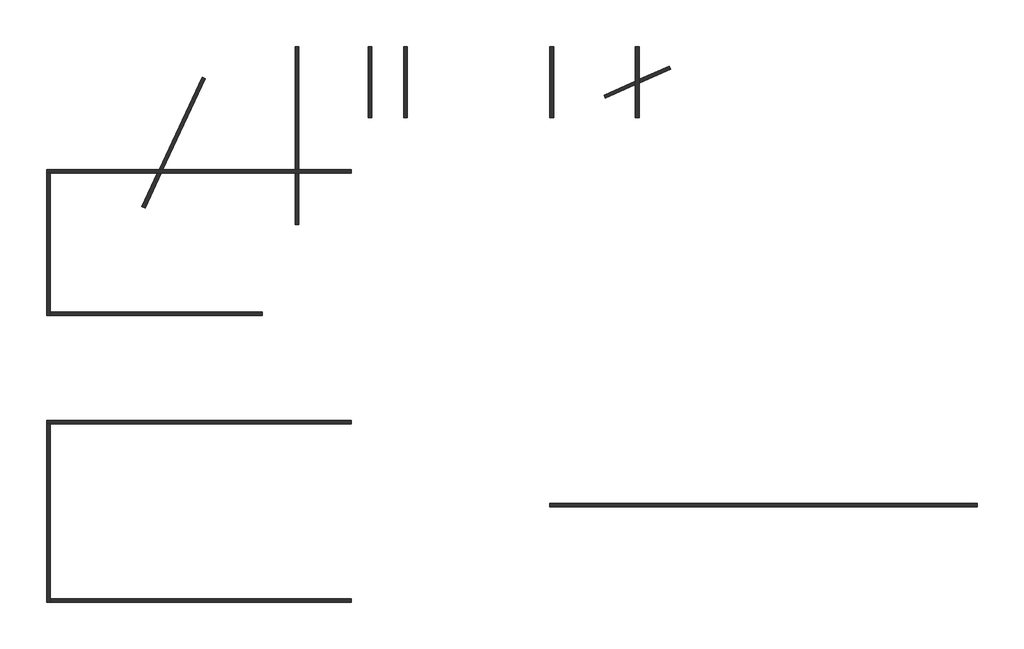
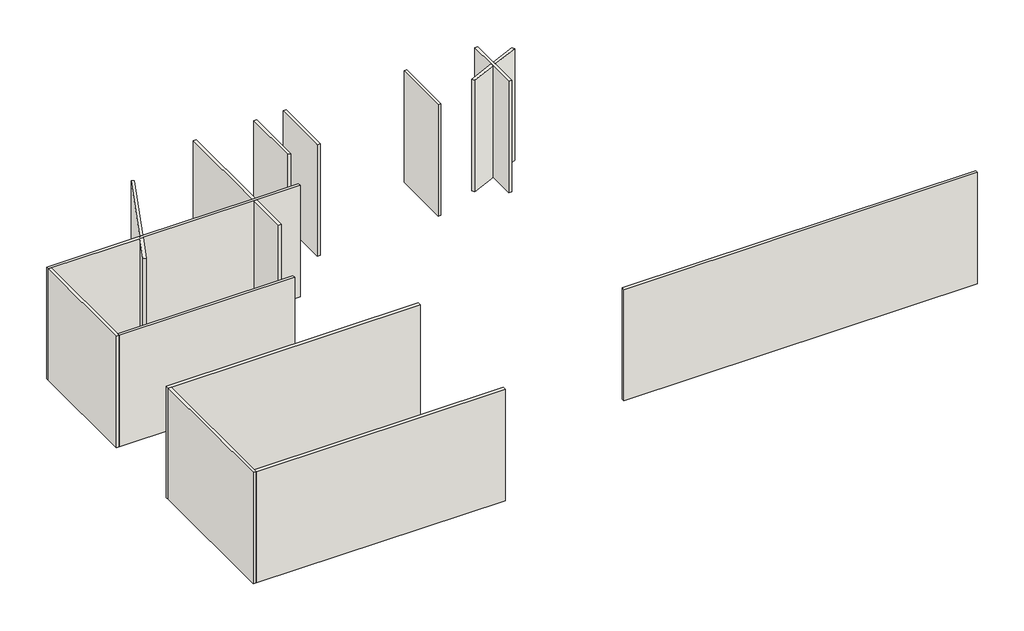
# One storey: 14 walls.
"""IFC4 building model written with IfcOpenShell, lengths in millimetres."""

import ifcopenshell
import ifcopenshell.guid

model = None  # the IFC model being written
_history = None  # IfcOwnerHistory: only IFC2X3 demands one
_inside = {}  # id of a spatial element -> (the spatial element, [elements in it])
_under = {}  # id of a project, library or spatial element -> (it, [spatial elements below it])
_declared = {}  # id of a project -> (the project, [libraries it declares])
_typed = {}  # id of a type object -> (the type object, [elements of that type])
_made_of = {}  # id of a material, layer set ... -> (it, [elements and type objects made of it])


def new_model(schema):
    """Start an empty IFC model of exactly this schema.

    Asked for "IFC4X3", IfcOpenShell would pick the latest addendum, in which some entities
    have other attributes; the version numbers below select the first issue.
    IFC2X3 requires an IfcOwnerHistory on every rooted entity: one is made here for all.
    """
    global model, _history
    if schema == "IFC4X3":
        model = ifcopenshell.file(schema_version=(4, 3, 0, 0))
    else:
        model = ifcopenshell.file(schema=schema)
    _inside.clear()
    _under.clear()
    _declared.clear()
    _typed.clear()
    _made_of.clear()
    _history = None
    if model.schema == "IFC2X3":
        org = make("IfcOrganization", Name="unknown")
        user = make(
            "IfcPersonAndOrganization",
            ThePerson=make("IfcPerson", FamilyName="unknown"),
            TheOrganization=org,
        )
        app = make(
            "IfcApplication",
            ApplicationDeveloper=org,
            Version="unknown",
            ApplicationFullName="unknown",
            ApplicationIdentifier="unknown",
        )
        _history = make(
            "IfcOwnerHistory",
            OwningUser=user,
            OwningApplication=app,
            ChangeAction="ADDED",
            CreationDate=0,
        )
    return model


def make(cls, **values):
    """One entity of the class cls with the attributes given. An attribute that is None is left unset."""
    return model.create_entity(
        cls, **{name: value for name, value in values.items() if value is not None}
    )


def rooted(cls, **values):
    """An entity with a GlobalId (a new one), such as an element, a storey or a relation."""
    return make(cls, GlobalId=ifcopenshell.guid.new(), OwnerHistory=_history, **values)


def si_unit(unit_type, name, prefix=None):
    """IfcSIUnit, for example si_unit("LENGTHUNIT", "METRE", prefix="MILLI")."""
    return make("IfcSIUnit", UnitType=unit_type, Prefix=prefix, Name=name)


def assignment(units):
    """IfcUnitAssignment: the units of a project."""
    return None if units is None else make("IfcUnitAssignment", Units=units)


def point(xyz):
    """IfcCartesianPoint."""
    return None if xyz is None else make("IfcCartesianPoint", Coordinates=xyz)


def direction(xyz):
    """IfcDirection."""
    return None if xyz is None else make("IfcDirection", DirectionRatios=xyz)


def frame(location, z_axis=None, x_axis=None):
    """IfcAxis2Placement3D, a coordinate frame: its origin and axes. An axis left out is left unset."""
    return make(
        "IfcAxis2Placement3D",
        Location=point(location),
        Axis=direction(z_axis),
        RefDirection=direction(x_axis),
    )


def origin():
    """The frame at (0, 0, 0) with its axes left unset."""
    return frame((0.0, 0.0, 0.0))


def origin_with_axes():
    """The frame at (0, 0, 0) with the z axis (0, 0, 1) and the x axis (1, 0, 0) written out."""
    return frame((0.0, 0.0, 0.0), z_axis=(0.0, 0.0, 1.0), x_axis=(1.0, 0.0, 0.0))


def place(relative_to, where):
    """IfcLocalPlacement: puts the frame where relative to a parent placement (None: the world)."""
    return make(
        "IfcLocalPlacement", PlacementRelTo=relative_to, RelativePlacement=where
    )


def context(
    kind, dimensions, precision=None, world=None, true_north=None, identifier=None
):
    """IfcGeometricRepresentationContext, for example the 3D "Model" context."""
    return make(
        "IfcGeometricRepresentationContext",
        ContextIdentifier=identifier,
        ContextType=kind,
        CoordinateSpaceDimension=dimensions,
        Precision=precision,
        WorldCoordinateSystem=world,
        TrueNorth=true_north,
    )


def project(units=None, contexts=None):
    """IfcProject with its units and contexts."""
    return rooted(
        "IfcProject",
        Name="project",
        RepresentationContexts=contexts,
        UnitsInContext=assignment(units),
    )


def spatial(cls, under=None, at=None, **own):
    """A site, building, storey or space (cls), placed at a placement, below another one or the project."""
    s = rooted(cls, ObjectPlacement=at, **own)
    if under is not None:
        _under.setdefault(under.id(), (under, []))[1].append(s)
    return s


def polyline(points):
    """IfcPolyline through the points."""
    return make("IfcPolyline", Points=[point(p) for p in points])


def outline(outer, holes=None, kind="AREA"):
    """IfcArbitraryClosedProfileDef: a profile drawn as a closed curve; with holes, ...WithVoids."""
    if holes is None:
        return make("IfcArbitraryClosedProfileDef", ProfileType=kind, OuterCurve=outer)
    return make(
        "IfcArbitraryProfileDefWithVoids",
        ProfileType=kind,
        OuterCurve=outer,
        InnerCurves=holes,
    )


def extrude(swept, where, along, depth):
    """IfcExtrudedAreaSolid: the profile swept, set in the frame where, extruded along a direction by depth."""
    return make(
        "IfcExtrudedAreaSolid",
        SweptArea=swept,
        Position=where,
        ExtrudedDirection=direction(along),
        Depth=depth,
    )


def faces_of(points, faces, orient=None, outer=None):
    """IfcFace entities. A face is a list of loops; a loop is a list of indices into points, from 0.

    orient and outer hold one flag for each loop. By default every Orientation is true, the
    first loop of a face is its IfcFaceOuterBound and the others are IfcFaceBound.
    """
    made = []
    for i, loops in enumerate(faces):
        bounds = []
        for j, loop in enumerate(loops):
            is_outer = j == 0 if outer is None else outer[i][j]
            bounds.append(
                make(
                    "IfcFaceOuterBound" if is_outer else "IfcFaceBound",
                    Bound=make("IfcPolyLoop", Polygon=[points[k] for k in loop]),
                    Orientation=True if orient is None else orient[i][j],
                )
            )
        made.append(make("IfcFace", Bounds=bounds))
    return made


def faceted_brep(points, faces, orient=None, outer=None, voids=None):
    """IfcFacetedBrep: a solid bounded by flat faces; with voids (closed shells), ...WithVoids."""
    shared = [point(p) for p in points]
    hull = make("IfcClosedShell", CfsFaces=faces_of(shared, faces, orient, outer))
    if voids is None:
        return make("IfcFacetedBrep", Outer=hull)
    return make(
        "IfcFacetedBrepWithVoids",
        Outer=hull,
        Voids=[
            make(cls, CfsFaces=faces_of(shared, fs, o, b)) for cls, fs, o, b in voids
        ],
    )


def shape(context_of_items, identifier, shape_type, items):
    """IfcShapeRepresentation: the items that make up one representation, for example the "Body"."""
    return make(
        "IfcShapeRepresentation",
        ContextOfItems=context_of_items,
        RepresentationIdentifier=identifier,
        RepresentationType=shape_type,
        Items=items,
    )


def made_of(thing, what):
    """Note that an element or type object is made of a material, layer set ...; save() writes the relation."""
    if what is not None:
        _made_of.setdefault(what.id(), (what, []))[1].append(thing)
    return thing


def element(
    cls,
    number,
    at=None,
    inside=None,
    cuts=None,
    type_object=None,
    material=None,
    context=None,
    identifier="Body",
    shape_type=None,
    held_by="IfcProductDefinitionShape",
    body=None,
    shapes=None,
    **own,
):
    """One element of the class cls, such as IfcWall. Its Tag is "e" and its number.

    at: its placement. inside: the storey or other place that contains it. cuts: it is an
    opening in that element (IfcRelVoidsElement). A single representation is given by context,
    identifier, shape_type and body (its items); several are given by shapes. held_by: the class
    of the entity that holds the representations. save() writes the other relations.
    """
    e = rooted(cls, Tag="e%d" % number, ObjectPlacement=at, **own)
    if body is not None:
        shapes = [shape(context, identifier, shape_type, body)]
    if shapes is not None:
        e.Representation = make(held_by, Representations=shapes)
    if inside is not None:
        _inside.setdefault(inside.id(), (inside, []))[1].append(e)
    if cuts is not None:
        rooted(
            "IfcRelVoidsElement", RelatingBuildingElement=cuts, RelatedOpeningElement=e
        )
    if type_object is not None:
        _typed.setdefault(type_object.id(), (type_object, []))[1].append(e)
    return made_of(e, material)


def aggregate(whole, parts):
    """IfcRelAggregates: a whole, such as a stair, and the parts it consists of."""
    return rooted("IfcRelAggregates", RelatingObject=whole, RelatedObjects=parts)


def save(model, path):
    """Write the relations noted so far, then the file.

    IfcRelAggregates (storeys below a building ...), IfcRelContainedInSpatialStructure (elements
    in a storey), IfcRelDefinesByType, IfcRelAssociatesMaterial and IfcRelDeclares: one each for
    every whole, place, type object, material and project.
    """
    for whole, parts in _under.values():
        aggregate(whole, parts)
    for where, things in _inside.values():
        rooted(
            "IfcRelContainedInSpatialStructure",
            RelatedElements=things,
            RelatingStructure=where,
        )
    for kind, things in _typed.values():
        rooted("IfcRelDefinesByType", RelatedObjects=things, RelatingType=kind)
    for what, things in _made_of.values():
        rooted("IfcRelAssociatesMaterial", RelatedObjects=things, RelatingMaterial=what)
    for by, libraries in _declared.values():
        rooted("IfcRelDeclares", RelatingContext=by, RelatedDefinitions=libraries)
    model.write(path)


model = new_model("IFC4")

# Units and contexts
model_context = context("Model", 3, world=origin())
ifc_project = project(units=[si_unit("LENGTHUNIT", "METRE", prefix="MILLI")], contexts=[model_context])

# Site, building, storey
site = spatial("IfcSite", under=ifc_project)
building = spatial("IfcBuilding", under=site)
storey = spatial("IfcBuildingStorey", under=building, Name="Nível 1", Elevation=0.0)

# Walls
placement = place(None, origin())
element("IfcWall", 1, ObjectType="Genérico - 200 mm", at=placement, inside=storey, context=model_context, shape_type="Brep", body=[
    faceted_brep([(-1493.9577256, 11354.9497741, 0.0), (-4435.5805506, 11354.9497741, 0.0), (-4635.5805506, 11354.9497741, 0.0), (-12059.6453308, 11354.9497741, 0.0), (-12280.3209146, 11354.9497741, 0.0), (-18593.9577256, 11354.9497741, 0.0), (-18593.9577256, 11354.9497741, 8000.0), (-12280.3209146, 11354.9497741, 8000.0), (-12059.6453308, 11354.9497741, 8000.0), (-4635.5805506, 11354.9497741, 8000.0), (-4435.5805506, 11354.9497741, 8000.0), (-1493.9577256, 11354.9497741, 8000.0), (-1493.9577256, 11154.9497741, 0.0), (-1493.9577256, 11154.9497741, 8000.0), (-4435.5805506, 11154.9497741, 8000.0), (-4635.5805506, 11154.9497741, 8000.0), (-12152.9068625, 11154.9497741, 8000.0), (-12373.5824463, 11154.9497741, 8000.0), (-18393.9577256, 11154.9497741, 8000.0), (-18593.9577256, 11154.9497741, 8000.0), (-18593.9577256, 11154.9497741, 0.0), (-18393.9577256, 11154.9497741, 0.0), (-12373.5824463, 11154.9497741, 0.0), (-12152.9068625, 11154.9497741, 0.0), (-4635.5805506, 11154.9497741, 0.0), (-4435.5805506, 11154.9497741, 0.0)], [[[0, 1, 2, 3, 4, 5, 6, 7, 8, 9, 10, 11]], [[12, 13, 14, 15, 16, 17, 18, 19, 20, 21, 22, 23, 24, 25]], [[5, 4, 3, 2, 1, 0, 12, 25, 24, 23, 22, 21, 20]], [[11, 10, 9, 8, 7, 6, 19, 18, 17, 16, 15, 14, 13]], [[0, 11, 13, 12]], [[6, 5, 20, 19]]]),
])
element("IfcWall", 2, ObjectType="Genérico - 200 mm", at=placement, inside=storey, context=model_context, shape_type="Brep", body=[
    faceted_brep([(-18593.9577256, 11154.9497741, 0.0), (-18593.9577256, 3154.9497741, 0.0), (-18593.9577256, 3154.9497741, 8000.0), (-18593.9577256, 11154.9497741, 8000.0), (-18393.9577256, 11154.9497741, 0.0), (-18393.9577256, 11154.9497741, 8000.0), (-18393.9577256, 3354.9497741, 8000.0), (-18393.9577256, 3154.9497741, 8000.0), (-18393.9577256, 3154.9497741, 0.0), (-18393.9577256, 3354.9497741, 0.0)], [[[0, 1, 2, 3]], [[4, 5, 6, 7, 8, 9]], [[1, 0, 4, 9, 8]], [[3, 2, 7, 6, 5]], [[0, 3, 5, 4]], [[2, 1, 8, 7]]]),
])
element("IfcWall", 3, ObjectType="Genérico - 200 mm", at=placement, inside=storey, context=model_context, shape_type="SweptSolid", body=[
    extrude(outline(polyline([(-6493.9577256, 3154.9497741), (-18393.9577256, 3154.9497741), (-18393.9577256, 3354.9497741), (-6493.9577256, 3354.9497741), (-6493.9577256, 3154.9497741)])), origin_with_axes(), (0.0, 0.0, 1.0), 8000.0),
])
element("IfcWall", 4, ObjectType="Genérico - 200 mm", at=placement, inside=storey, context=model_context, shape_type="SweptSolid", body=[
    extrude(outline(polyline([(-13064.2462865, 9200.5760723), (-13245.5078439, 9285.0997247), (-12373.5824463, 11154.9497741), (-12152.9068625, 11154.9497741), (-13064.2462865, 9200.5760723)])), origin_with_axes(), (0.0, 0.0, 1.0), 8000.0),
    extrude(outline(polyline([(-9864.56175, 16535.562021), (-9683.3001926, 16451.0383686), (-12059.6453308, 11354.9497741), (-12280.3209146, 11354.9497741), (-9864.56175, 16535.562021)])), origin_with_axes(), (0.0, 0.0, 1.0), 8000.0),
])
element("IfcWall", 5, ObjectType="Genérico - 200 mm", at=placement, inside=storey, context=model_context, shape_type="SweptSolid", body=[
    extrude(outline(polyline([(-4435.5805506, 8267.580176), (-4635.5805506, 8267.580176), (-4635.5805506, 11154.9497741), (-4435.5805506, 11154.9497741), (-4435.5805506, 8267.580176)])), origin_with_axes(), (0.0, 0.0, 1.0), 8000.0),
    extrude(outline(polyline([(-4635.5805506, 18267.580176), (-4435.5805506, 18267.580176), (-4435.5805506, 11354.9497741), (-4635.5805506, 11354.9497741), (-4635.5805506, 18267.580176)])), origin_with_axes(), (0.0, 0.0, 1.0), 8000.0),
])
element("IfcWall", 6, ObjectType="Genérico - 200 mm", at=placement, inside=storey, context=model_context, shape_type="Brep", body=[
    faceted_brep([(-1493.9577256, -2745.0502259, 0.0), (-18593.9577256, -2745.0502259, 0.0), (-18593.9577256, -2745.0502259, 8000.0), (-1493.9577256, -2745.0502259, 8000.0), (-1493.9577256, -2945.0502259, 0.0), (-1493.9577256, -2945.0502259, 8000.0), (-18393.9577256, -2945.0502259, 8000.0), (-18593.9577256, -2945.0502259, 8000.0), (-18593.9577256, -2945.0502259, 0.0), (-18393.9577256, -2945.0502259, 0.0)], [[[0, 1, 2, 3]], [[4, 5, 6, 7, 8, 9]], [[1, 0, 4, 9, 8]], [[3, 2, 7, 6, 5]], [[0, 3, 5, 4]], [[2, 1, 8, 7]]]),
])
element("IfcWall", 7, ObjectType="Genérico - 200 mm", at=placement, inside=storey, context=model_context, shape_type="Brep", body=[
    faceted_brep([(-18593.9577256, -2945.0502259, 0.0), (-18593.9577256, -12945.0502259, 0.0), (-18593.9577256, -12945.0502259, 8000.0), (-18593.9577256, -2945.0502259, 8000.0), (-18393.9577256, -2945.0502259, 0.0), (-18393.9577256, -2945.0502259, 8000.0), (-18393.9577256, -12745.0502259, 8000.0), (-18393.9577256, -12945.0502259, 8000.0), (-18393.9577256, -12945.0502259, 0.0), (-18393.9577256, -12745.0502259, 0.0)], [[[0, 1, 2, 3]], [[4, 5, 6, 7, 8, 9]], [[1, 0, 4, 9, 8]], [[3, 2, 7, 6, 5]], [[0, 3, 5, 4]], [[2, 1, 8, 7]]]),
])
element("IfcWall", 8, ObjectType="Genérico - 200 mm", at=placement, inside=storey, context=model_context, shape_type="SweptSolid", body=[
    extrude(outline(polyline([(-1493.9577256, -12945.0502259), (-18393.9577256, -12945.0502259), (-18393.9577256, -12745.0502259), (-1493.9577256, -12745.0502259), (-1493.9577256, -12945.0502259)])), origin_with_axes(), (0.0, 0.0, 1.0), 8000.0),
])
element("IfcWall", 9, ObjectType="Genérico - 200 mm", at=placement, inside=storey, context=model_context, shape_type="SweptSolid", body=[
    extrude(outline(polyline([(33658.6592991, -7601.724313), (9658.6592991, -7601.724313), (9658.6592991, -7401.724313), (33658.6592991, -7401.724313), (33658.6592991, -7601.724313)])), origin_with_axes(), (0.0, 0.0, 1.0), 8000.0),
])
element("IfcWall", 10, ObjectType="Genérico - 200 mm", at=placement, inside=storey, context=model_context, shape_type="SweptSolid", body=[
    extrude(outline(polyline([(-535.5805506, 14267.580176), (-535.5805506, 18267.580176), (-335.5805506, 18267.580176), (-335.5805506, 14267.580176), (-535.5805506, 14267.580176)])), origin_with_axes(), (0.0, 0.0, 1.0), 8000.0),
])
element("IfcWall", 11, ObjectType="Genérico - 200 mm", at=placement, inside=storey, context=model_context, shape_type="Brep", body=[
    faceted_brep([(14464.4194494, 18267.580176, 0.0), (14464.4194494, 16332.5209353, 0.0), (14464.4194494, 16113.5936796, 0.0), (14464.4194494, 14267.580176, 0.0), (14464.4194494, 14267.580176, 8000.0), (14464.4194494, 16113.5936796, 8000.0), (14464.4194494, 16332.5209353, 8000.0), (14464.4194494, 18267.580176, 8000.0), (14664.4194494, 18267.580176, 0.0), (14664.4194494, 18267.580176, 8000.0), (14664.4194494, 16421.5666724, 8000.0), (14664.4194494, 16202.6394167, 8000.0), (14664.4194494, 14267.580176, 8000.0), (14664.4194494, 14267.580176, 0.0), (14664.4194494, 16202.6394167, 0.0), (14664.4194494, 16421.5666724, 0.0)], [[[0, 1, 2, 3, 4, 5, 6, 7]], [[8, 9, 10, 11, 12, 13, 14, 15]], [[3, 2, 1, 0, 8, 15, 14, 13]], [[4, 3, 13, 12]], [[7, 6, 5, 4, 12, 11, 10, 9]], [[0, 7, 9, 8]]]),
])
element("IfcWall", 12, ObjectType="Genérico - 200 mm", at=placement, inside=storey, context=model_context, shape_type="SweptSolid", body=[
    extrude(outline(polyline([(1464.4194494, 14267.580176), (1464.4194494, 18267.580176), (1664.4194494, 18267.580176), (1664.4194494, 14267.580176), (1464.4194494, 14267.580176)])), origin_with_axes(), (0.0, 0.0, 1.0), 8000.0),
])
element("IfcWall", 13, ObjectType="Genérico - 200 mm", at=placement, inside=storey, context=model_context, shape_type="SweptSolid", body=[
    extrude(outline(polyline([(9664.4194494, 14267.580176), (9664.4194494, 18267.580176), (9864.4194494, 18267.580176), (9864.4194494, 14267.580176), (9664.4194494, 14267.580176)])), origin_with_axes(), (0.0, 0.0, 1.0), 8000.0),
])
element("IfcWall", 14, ObjectType="Genérico - 200 mm", at=placement, inside=storey, context=model_context, shape_type="SweptSolid", body=[
    extrude(outline(polyline([(12778.0021985, 15362.7523441), (12696.6548699, 15545.4614356), (14464.4194494, 16332.5209353), (14464.4194494, 16113.5936796), (12778.0021985, 15362.7523441)])), origin_with_axes(), (0.0, 0.0, 1.0), 8000.0),
    extrude(outline(polyline([(16350.8367004, 17172.4080079), (16432.184029, 16989.6989164), (14664.4194494, 16202.6394167), (14664.4194494, 16421.5666724), (16350.8367004, 17172.4080079)])), origin_with_axes(), (0.0, 0.0, 1.0), 8000.0),
])

save(model, "model.ifc")
